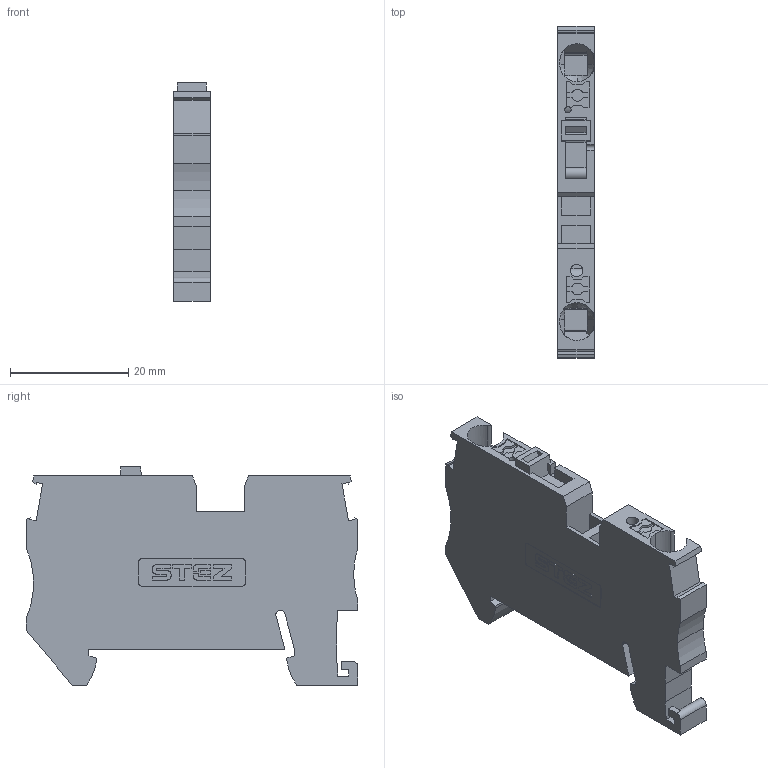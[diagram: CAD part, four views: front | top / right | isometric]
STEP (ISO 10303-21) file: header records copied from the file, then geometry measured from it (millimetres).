
FILE_DESCRIPTION(('TFLEX Exchange Step'),'2;1');
FILE_NAME('14200012_КНБ_4-2-РЗМ.stp', '2025-06-24T11:13:24+03:00',('MVarava'),('Unknown organisation'),'TFLEX Exchange 2023.0','T-FLEX CAD','Unknown authorisation');
FILE_SCHEMA( ('AUTOMOTIVE_DESIGN { 1 0 10303 214 1 1 1 1 }') );
Length unit declared in the file: millimetre
Products named in the file (1): Nodes
Bounding box: 6.15 x 56 x 36.9 mm (x, y, z)
Volume: 8553 mm3; surface area: 6198.3 mm2
Topology: 1 solids, 1 shells, 475 faces, 1401 edges, 932 vertices
Faces by surface type: plane 260, cylinder 207, cone 4, torus 4
Full cylindrical faces by diameter (mm): 1.1 x1, 2.1 x1
Entity records: 17169 total; most frequent: CARTESIAN_POINT 4365, ORIENTED_EDGE 2802, DIRECTION 2568, EDGE_CURVE 1401, VERTEX_POINT 932, AXIS2_PLACEMENT_3D 878, VECTOR 812, LINE 812
